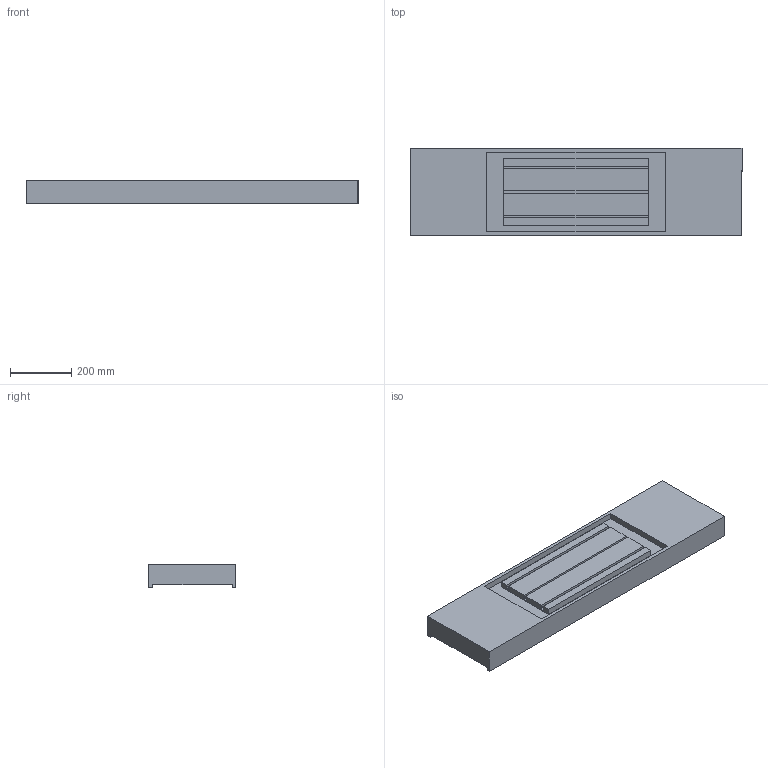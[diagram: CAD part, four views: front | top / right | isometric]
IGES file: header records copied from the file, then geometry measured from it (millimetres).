
Start section: SolidWorks IGES FILE using analytic representation for surfaces
Global section: file name: C:\Documents and Settings\admin-prod\Mes documents\Cu-3axes-realmeca-sw2003\cu-3axes-real-axeX.IGS; native system: SolidWorks 2003 by SolidWorks Corporation; preprocessor: Version 5.3; author: admin-prod; date: 070509.135715; units: millimetre
Bounding box: 1080 x 284 x 78 mm (x, y, z)
Surface area: 964808 mm2 (no closed solid volume)
Topology: 0 solids, 0 shells, 44 faces, 240 edges, 240 vertices
Faces by surface type: bspline 44
